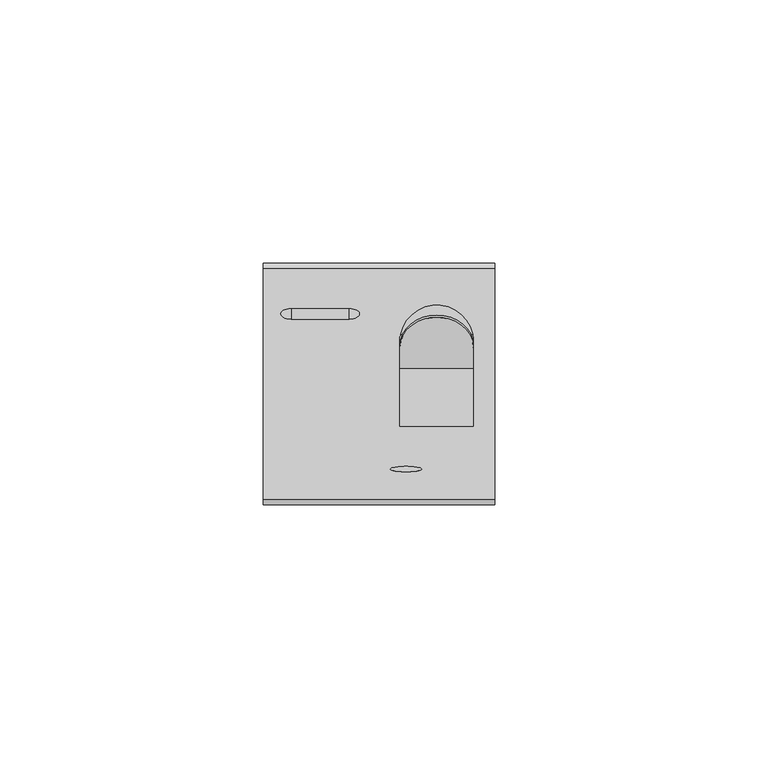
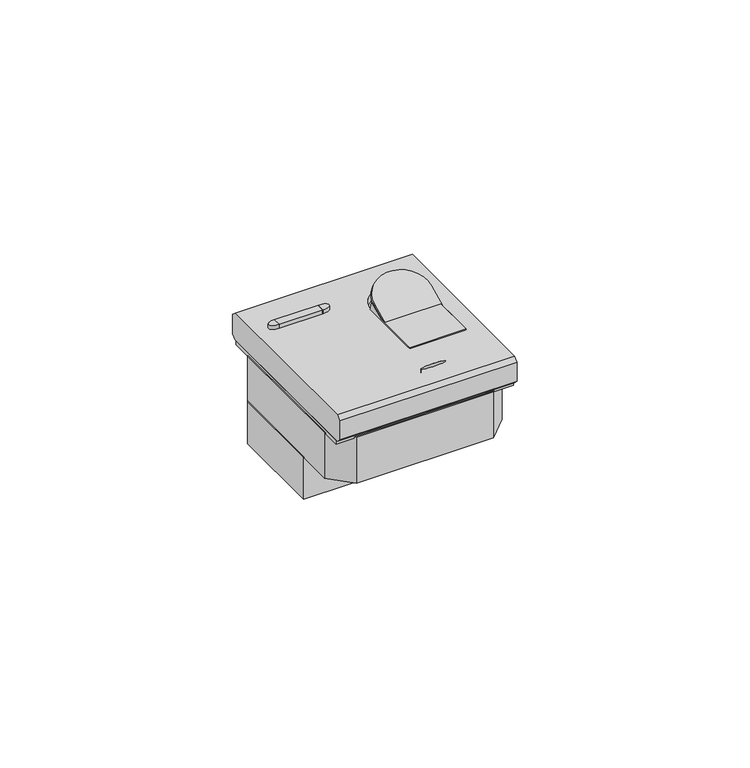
"""IFC4 building model written with IfcOpenShell, lengths in millimetres: proxy geometry, L4305 LI magnetotermico 1P+N : L4305-6 LI magnetotermico 1P+N 6A 10mA."""

from ifc_helpers import new_model, si_unit, point, frame, origin, place, context, project, spatial, polyline, circle_curve, ellipse_curve, trimmed, outline, extrude, source, transform, mapped, element, save
from ifc_brep_helpers import plane_surface, revolved_surface, extruded_surface, advanced_brep


def electrical_fixtures_719190fe(model_context):
    return source(origin(), model_context, "Body", "SolidModel", [
        advanced_brep(
        [(-5.6568016, 14.3352576, 11.0), (-5.6568016, 12.3352576, 11.0), (-5.6568016, 14.3352576, 9.979899), (-5.6568016, 12.3352576, 9.979899)],
        [
            (0, 1),
            (1, 0, ellipse_curve(frame((-5.6568016, 13.3352576, 11.0), z_axis=(0.0, 0.0, 1.0), x_axis=(1.0, 0.0, 0.0)), 2.0, 1.0)),
            (2, 3, ellipse_curve(frame((-5.6568016, 13.3352576, 9.979899), z_axis=(0.0, 0.0, -1.0), x_axis=(0.0, -1.0, 0.0)), 1.0, 2.0)),
            (3, 2),
            (0, 2),
            (3, 1),
        ],
        [
            plane_surface(frame((-5.6568016, 12.3352576, 11.0), z_axis=(0.0, 0.0, 1.0), x_axis=(0.0, -1.0, 0.0))),
            plane_surface(frame((-5.6568016, 12.3352576, 9.979899), z_axis=(0.0, 0.0, -1.0), x_axis=(0.0, 1.0, 0.0))),
            plane_surface(frame((-5.6568016, 14.3352576, 11.0), z_axis=(-1.0, 0.0, 0.0), x_axis=(0.0, 0.0, -1.0))),
            extruded_surface(trimmed(ellipse_curve(frame((-5.6568016, 13.3352576, 8.959798), z_axis=(0.0, 0.0, 1.0), x_axis=(0.0, -1.0, 0.0)), 1.0, 2.0), [point((-5.6568016, 12.3352576, 8.959798))], [point((-5.6568016, 14.3352576, 8.959798))], True, "CARTESIAN"), (0.0, 0.0, 1.0201010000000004), 1.0201010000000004),
        ],
        [
            (0, [[1, 2]]),
            (1, [[3, 4]]),
            (2, [[-1, 5, -4, 6]]),
            (3, [[-2, -6, -3, -5]]),
        ],
    ),
        advanced_brep(
        [(-16.6568016, 14.3352576, 11.0), (-16.6568016, 12.3352576, 11.0), (-16.6568016, 14.3352576, 9.979899), (-16.6568016, 12.3352576, 9.979899)],
        [
            (0, 1, ellipse_curve(frame((-16.6568016, 13.3352576, 11.0), z_axis=(0.0, 0.0, 1.0), x_axis=(1.0, 0.0, 0.0)), 2.0, 1.0)),
            (1, 0),
            (2, 3),
            (3, 2, ellipse_curve(frame((-16.6568016, 13.3352576, 9.979899), z_axis=(0.0, 0.0, -1.0), x_axis=(0.0, -1.0, 0.0)), 1.0, 2.0)),
            (0, 2),
            (3, 1),
        ],
        [
            plane_surface(frame((-16.6568016, 12.3352576, 11.0), z_axis=(0.0, 0.0, 1.0), x_axis=(1.0, 0.0, 0.0))),
            plane_surface(frame((-16.6568016, 12.3352576, 9.979899), z_axis=(0.0, 0.0, -1.0), x_axis=(-1.0, 0.0, 0.0))),
            extruded_surface(trimmed(ellipse_curve(frame((-16.6568016, 13.3352576, 8.959798), z_axis=(0.0, 0.0, 1.0), x_axis=(0.0, -1.0, 0.0)), 1.0, 2.0), [point((-16.6568016, 14.3352576, 8.959798))], [point((-16.6568016, 12.3352576, 8.959798))], True, "CARTESIAN"), (0.0, 0.0, 1.0201010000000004), 1.0201010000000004),
            plane_surface(frame((-16.6568016, 12.3352576, 11.0), z_axis=(1.0, 0.0, 0.0), x_axis=(0.0, 0.0, -1.0))),
        ],
        [
            (0, [[1, 2]]),
            (1, [[3, 4]]),
            (2, [[-1, 5, -4, 6]]),
            (3, [[-2, -6, -3, -5]]),
        ],
    ),
        extrude(outline(polyline([(-5.6568016, 12.3352576), (-16.6568016, 12.3352576), (-16.6568016, 14.3352576), (-5.6568016, 14.3352576), (-5.6568016, 12.3352576)])), frame((0.0, 0.0, 9.979899), z_axis=(0.0, 0.0, 1.0), x_axis=(1.0, 0.0, 0.0)), (0.0, 0.0, 1.0), 1.020101),
        extrude(outline(polyline([(4.2459071, 9.979899), (8.3339056, 11.886164), (9.3920425, 8.0), (-8.0, 8.0), (-8.0, 9.979899), (4.2459071, 9.979899)])), frame((4.0, 0.0, 0.0), z_axis=(1.0, 0.0, 0.0), x_axis=(0.0, 1.0, 0.0)), (0.0, 0.0, 1.0), 14.0),
        advanced_brep(
        [(4.0, 1.9050993, 9.9917403), (18.0, 1.9050993, 9.9917403), (18.0, 6.9068775, 12.3241078), (4.0, 6.9068775, 12.3241078), (4.0, 2.3277175, 9.0854325), (4.0, 7.3294957, 11.4178), (18.0, 7.3294957, 11.4178), (18.0, 2.3277175, 9.0854325)],
        [
            (0, 1),
            (1, 2),
            (2, 3, ellipse_curve(frame((11.0, 6.9068775, 12.3241078), z_axis=(0.0, -0.42261826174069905, 0.9063077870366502), x_axis=(1.0, 0.0, 0.0)), 7.0, 6.3441545)),
            (3, 0),
            (4, 5),
            (5, 6, ellipse_curve(frame((11.0, 7.3294957, 11.4178), z_axis=(0.0, 0.42261826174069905, -0.9063077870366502), x_axis=(1.0, 0.0, 0.0)), 7.0, 6.3441545)),
            (6, 7),
            (7, 4),
            (0, 4),
            (7, 1),
            (6, 2),
            (5, 3),
        ],
        [
            plane_surface(frame((-18.0, 1.9050993, 9.9917403), z_axis=(0.0, -0.42261826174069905, 0.9063077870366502), x_axis=(1.0, 0.0, 0.0))),
            plane_surface(frame((-18.0, 2.3277175, 9.0854325), z_axis=(0.0, 0.42261826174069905, -0.9063077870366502), x_axis=(-1.0, 0.0, 0.0))),
            plane_surface(frame((4.0, 1.9050993, 9.9917403), z_axis=(0.0, -0.9063077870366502, -0.422618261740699), x_axis=(0.0, 0.422618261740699, -0.9063077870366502))),
            plane_surface(frame((18.0, 1.9050993, 9.9917403), z_axis=(1.0, 0.0, 0.0), x_axis=(0.0, 0.422618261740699, -0.9063077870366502))),
            extruded_surface(trimmed(ellipse_curve(frame((11.0, 7.752114, 10.5114922), z_axis=(0.0, -0.42261826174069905, 0.9063077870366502), x_axis=(1.0, 0.0, 0.0)), 7.0, 6.3441545), [point((18.0, 7.752114, 10.5114922))], [point((4.0, 7.752114, 10.5114922))], True, "CARTESIAN"), (0.0, -0.4226182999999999, 0.9063078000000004), 1.000000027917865),
            plane_surface(frame((4.0, 6.9068775, 12.3241078), z_axis=(-1.0000000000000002, 0.0, 0.0), x_axis=(0.0, 0.42261826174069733, -0.906307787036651))),
        ],
        [
            (0, [[1, 2, 3, 4]]),
            (1, [[5, 6, 7, 8]]),
            (2, [[-1, 9, -8, 10]]),
            (3, [[-2, -10, -7, 11]]),
            (4, [[-3, -11, -6, 12]]),
            (5, [[-4, -12, -5, -9]]),
        ],
    ),
        advanced_brep(
        [(22.0, -22.0, 3.0), (22.0, 22.0, 3.0), (22.0, 22.9899495, 3.9899495), (22.0, 22.9899495, 8.9899495), (22.0, 22.0, 9.979899), (22.0, -22.0, 9.979899), (22.0, -22.9899495, 8.9899495), (22.0, -22.9899495, 3.9899495), (-22.0, -22.0, 3.0), (-22.0, -22.9899495, 3.9899495), (-22.0, -22.9899495, 8.9899495), (-22.0, -22.0, 9.979899), (-22.0, 22.0, 9.979899), (-22.0, 22.9899495, 8.9899495), (-22.0, 22.9899495, 3.9899495), (-22.0, 22.0, 3.0), (18.0, 8.0, 9.979899), (18.0, -8.0, 9.979899), (4.0, -8.0, 9.979899), (4.0, 8.0, 9.979899), (2.1839026, -16.1699419, 9.979899), (8.1839026, -16.1699419, 9.979899), (18.0, -8.0, 8.0), (18.0, 8.0, 8.0), (4.0, 8.0, 8.0), (4.0, -8.0, 8.0), (8.1839026, -16.1699419, 9.0), (2.1839026, -16.1699419, 9.0)],
        [
            (0, 1),
            (1, 2),
            (2, 3),
            (3, 4),
            (4, 5),
            (5, 6),
            (6, 7),
            (7, 0),
            (8, 9),
            (9, 10),
            (10, 11),
            (11, 12),
            (12, 13),
            (13, 14),
            (14, 15),
            (15, 8),
            (0, 8),
            (15, 1),
            (5, 11),
            (10, 6),
            (9, 7),
            (14, 2),
            (13, 3),
            (12, 4),
            (16, 17),
            (17, 18),
            (18, 19),
            (19, 16, circle_curve(frame((11.0, 8.0, 9.979899), z_axis=(0.0, 0.0, -1.0), x_axis=(1.0, 0.0, 0.0)), 7.0)),
            (20, 21, ellipse_curve(frame((5.1839026, -16.1699419, 9.979899), z_axis=(0.0, 0.0, -1.0), x_axis=(-1.0, 0.0, 0.0)), 3.0, 0.5)),
            (21, 20, ellipse_curve(frame((5.1839026, -16.1699419, 9.979899), z_axis=(0.0, 0.0, -1.0), x_axis=(-1.0, 0.0, 0.0)), 3.0, 0.5)),
            (22, 23),
            (23, 24, circle_curve(frame((11.0, 8.0, 8.0), z_axis=(0.0, 0.0, 1.0), x_axis=(1.0, 0.0, 0.0)), 7.0)),
            (24, 25),
            (25, 22),
            (22, 17),
            (16, 23),
            (19, 24),
            (18, 25),
            (26, 27, ellipse_curve(frame((5.1839026, -16.1699419, 9.0), z_axis=(0.0, 0.0, 1.0), x_axis=(-1.0, 0.0, 0.0)), 3.0, 0.5)),
            (27, 26, ellipse_curve(frame((5.1839026, -16.1699419, 9.0), z_axis=(0.0, 0.0, 1.0), x_axis=(-1.0, 0.0, 0.0)), 3.0, 0.5)),
            (26, 21),
            (20, 27),
        ],
        [
            plane_surface(frame((22.0, 0.0, 3.0), z_axis=(1.0, 0.0, 0.0), x_axis=(0.0, 1.0, 0.0))),
            plane_surface(frame((-22.0, 0.0, 3.0), z_axis=(-1.0, 0.0, 0.0), x_axis=(0.0, -1.0, 0.0))),
            plane_surface(frame((22.0, -22.0, 3.0), z_axis=(0.0, 0.0, -1.0), x_axis=(-1.0, 0.0, 0.0))),
            plane_surface(frame((22.0, -22.0, 9.979899), z_axis=(0.0, -0.7071067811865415, 0.7071067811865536), x_axis=(-1.0, 0.0, 0.0))),
            plane_surface(frame((22.0, -22.9899495, 8.9899495), z_axis=(0.0, -1.0, 0.0), x_axis=(-1.0, 0.0, 0.0))),
            plane_surface(frame((22.0, -22.9899495, 3.9899495), z_axis=(0.0, -0.707106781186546, -0.707106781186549), x_axis=(-1.0, 0.0, 0.0))),
            plane_surface(frame((22.0, 22.0, 3.0), z_axis=(0.0, 0.7071067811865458, -0.7071067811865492), x_axis=(-1.0, 0.0, 0.0))),
            plane_surface(frame((22.0, 22.9899495, 3.9899495), z_axis=(0.0, 1.0, 0.0), x_axis=(-1.0, 0.0, 0.0))),
            plane_surface(frame((22.0, 22.9899495, 8.9899495), z_axis=(0.0, 0.7071067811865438, 0.7071067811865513), x_axis=(-1.0, 0.0, 0.0))),
            plane_surface(frame((22.0, 22.0, 9.979899), z_axis=(0.0, 0.0, 1.0), x_axis=(-1.0, 0.0, 0.0))),
            plane_surface(frame((18.0, -8.0, 8.0), z_axis=(0.0, 0.0, 1.0), x_axis=(0.0, -1.0, 0.0))),
            plane_surface(frame((18.0, -8.0, 9.979899), z_axis=(-1.0, 0.0, 0.0), x_axis=(0.0, 0.0, -1.0))),
            revolved_surface(polyline([(18.0, 8.0, 9.979899), (18.0, 8.0, 8.0)]), (11.0, 8.0, 8.0), (0.0, 0.0, 1.0)),
            plane_surface(frame((4.0, 8.0, 9.979899), z_axis=(1.0, 0.0, 0.0), x_axis=(0.0, 0.0, -1.0))),
            plane_surface(frame((4.0, -8.0, 9.979899), z_axis=(0.0, 1.0, 0.0), x_axis=(0.0, 0.0, -1.0))),
            plane_surface(frame((2.1839026, -16.1699419, 9.0), z_axis=(0.0, 0.0, 1.0), x_axis=(0.0, 1.0, 0.0))),
            extruded_surface(trimmed(ellipse_curve(frame((5.1839026, -16.1699419, 9.0), z_axis=(0.0, 0.0, 1.0), x_axis=(-1.0, 0.0, 0.0)), 3.0, 0.5), [point((8.1839026, -16.1699419, 9.0))], [point((2.1839026, -16.1699419, 9.0))], True, "CARTESIAN"), (0.0, 0.0, -0.9798989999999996), 0.9798989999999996),
            extruded_surface(trimmed(ellipse_curve(frame((5.1839026, -16.1699419, 9.0), z_axis=(0.0, 0.0, 1.0), x_axis=(-1.0, 0.0, 0.0)), 3.0, 0.5), [point((2.1839026, -16.1699419, 9.0))], [point((8.1839026, -16.1699419, 9.0))], True, "CARTESIAN"), (0.0, 0.0, -0.9798989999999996), 0.9798989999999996),
        ],
        [
            (0, [[1, 2, 3, 4, 5, 6, 7, 8]]),
            (1, [[9, 10, 11, 12, 13, 14, 15, 16]]),
            (2, [[-1, 17, -16, 18]]),
            (3, [[-6, 19, -11, 20]]),
            (4, [[-7, -20, -10, 21]]),
            (5, [[-8, -21, -9, -17]]),
            (6, [[-2, -18, -15, 22]]),
            (7, [[-3, -22, -14, 23]]),
            (8, [[-4, -23, -13, 24]]),
            (9, [[-5, -24, -12, -19], [25, 26, 27, 28], [29, 30]]),
            (10, [[31, 32, 33, 34]]),
            (11, [[-31, 35, -25, 36]]),
            (12, [[-32, -36, -28, 37]]),
            (13, [[-33, -37, -27, 38]]),
            (14, [[-34, -38, -26, -35]]),
            (15, [[39, 40]]),
            (16, [[-39, 41, -29, 42]]),
            (17, [[-40, -42, -30, -41]]),
        ],
    ),
        extrude(outline(polyline([(-22.0, -7.5), (-22.0, 16.5), (-20.0, 18.5), (20.0, 18.5), (22.0, 16.5), (22.0, -7.5), (-22.0, -7.5)])), frame((0.0, 0.0, -21.0), z_axis=(0.0, 0.0, 1.0), x_axis=(1.0, 0.0, 0.0)), (0.0, 0.0, 1.0), 11.0),
        extrude(outline(polyline([(22.0, -16.5), (17.0, -21.5), (-17.0, -21.5), (-22.0, -16.5), (-22.0, 16.5), (-17.0, 21.5), (17.0, 21.5), (22.0, 16.5), (22.0, -16.5)])), frame((0.0, 0.0, -10.0), z_axis=(0.0, 0.0, 1.0), x_axis=(1.0, 0.0, 0.0)), (0.0, 0.0, 1.0), 12.0),
        extrude(outline(polyline([(22.0, -21.5), (-22.0, -21.5), (-22.0, 21.5), (22.0, 21.5), (22.0, -21.5)])), frame((0.0, 0.0, 2.0), z_axis=(0.0, 0.0, 1.0), x_axis=(1.0, 0.0, 0.0)), (0.0, 0.0, 1.0), 1.0),
    ])


if __name__ == "__main__":
    model = new_model("IFC4")
    model_context = context("Model", 3, world=origin())
    ifc_project = project(units=[si_unit("LENGTHUNIT", "METRE", prefix="MILLI")], contexts=[model_context])
    site = spatial("IfcSite", under=ifc_project)
    building = spatial("IfcBuilding", under=site)
    placement = place(None, origin())
    electrical_fixtures_shape = electrical_fixtures_719190fe(model_context)
    element("IfcBuildingElementProxy", 1, Name="L4305 LI magnetotermico 1P+N : L4305-6 LI magnetotermico 1P+N 6A 10mA", ObjectType="L4305 LI magnetotermico 1P+N : L4305-6 LI magnetotermico 1P+N 6A 10mA", at=placement, inside=building, context=model_context, shape_type="MappedRepresentation", body=[
        mapped(electrical_fixtures_shape, transform((0.0, 0.0, 0.0), x_axis=(1.0, 0.0, 0.0), y_axis=(0.0, 1.0, 0.0), z_axis=(0.0, 0.0, 1.0))),
    ])
    save(model, "model.ifc")
